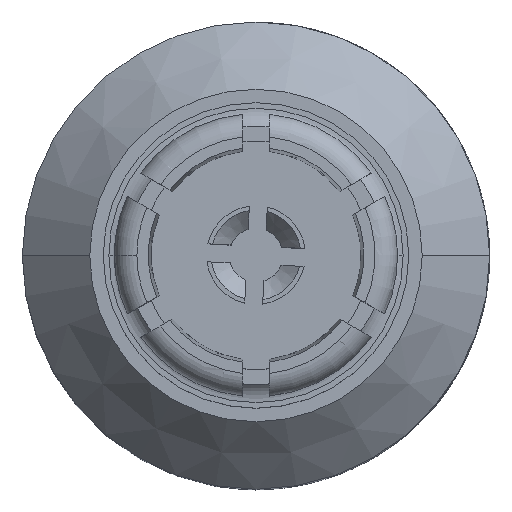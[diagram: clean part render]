
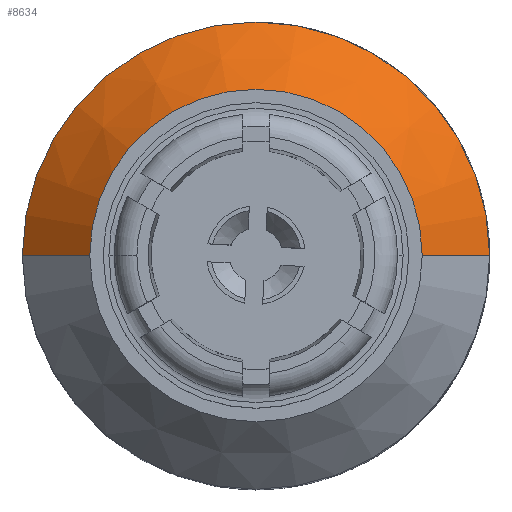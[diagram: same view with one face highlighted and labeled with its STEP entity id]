
A CAD part, top view. The second image highlights one B-rep face of the part: STEP entity #8634.
In plain terms, the highlighted conical face has half-angle 45 degrees and reference radius 1.321 mm.
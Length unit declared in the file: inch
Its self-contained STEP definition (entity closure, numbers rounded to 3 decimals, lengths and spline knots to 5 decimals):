
#140 = VECTOR ( 'NONE', #1028, 39.37008 ) ;
#150 = CIRCLE ( 'NONE', #5473, 0.037 ) ;
#764 = CARTESIAN_POINT ( 'NONE',  ( -0.037, 0., -0.052 ) ) ;
#1028 = DIRECTION ( 'NONE',  ( 0.707, 0., -0.707 ) ) ;
#1261 = CIRCLE ( 'NONE', #11273, 0.052 ) ;
#1588 = CARTESIAN_POINT ( 'NONE',  ( 0., 0., -0.067 ) ) ;
#1723 = ORIENTED_EDGE ( 'NONE', *, *, #5750, .F. ) ;
#1930 = DIRECTION ( 'NONE',  ( 0., 0., 1. ) ) ;
#2103 = DIRECTION ( 'NONE',  ( 0., 0., -1. ) ) ;
#2196 = VERTEX_POINT ( 'NONE', #764 ) ;
#2723 = VERTEX_POINT ( 'NONE', #10416 ) ;
#2995 = AXIS2_PLACEMENT_3D ( 'NONE', #7599, #2103, #3193 ) ;
#3121 = FACE_OUTER_BOUND ( 'NONE', #12282, .T. ) ;
#3193 = DIRECTION ( 'NONE',  ( -1., 0., 0. ) ) ;
#3350 = DIRECTION ( 'NONE',  ( 1., 0., 0. ) ) ;
#3425 = VERTEX_POINT ( 'NONE', #13402 ) ;
#3439 = CARTESIAN_POINT ( 'NONE',  ( 0.052, 0., -0.067 ) ) ;
#3480 = CONICAL_SURFACE ( 'NONE', #2995, 0.052, 0.785 ) ;
#3514 = LINE ( 'NONE', #3439, #140 ) ;
#4000 = LINE ( 'NONE', #11865, #11350 ) ;
#4078 = EDGE_CURVE ( 'NONE', #9135, #3425, #3514, .T. ) ;
#5473 = AXIS2_PLACEMENT_3D ( 'NONE', #9584, #1930, #8576 ) ;
#5750 = EDGE_CURVE ( 'NONE', #9135, #2196, #150, .T. ) ;
#6443 = ORIENTED_EDGE ( 'NONE', *, *, #6763, .T. ) ;
#6763 = EDGE_CURVE ( 'NONE', #3425, #2723, #1261, .T. ) ;
#7599 = CARTESIAN_POINT ( 'NONE',  ( 0., 0., -0.067 ) ) ;
#7839 = ORIENTED_EDGE ( 'NONE', *, *, #4078, .T. ) ;
#8576 = DIRECTION ( 'NONE',  ( 1., 0., 0. ) ) ;
#8634 = ADVANCED_FACE ( 'NONE', ( #3121 ), #3480, .T. ) ;
#9119 = ORIENTED_EDGE ( 'NONE', *, *, #9861, .F. ) ;
#9135 = VERTEX_POINT ( 'NONE', #14238 ) ;
#9584 = CARTESIAN_POINT ( 'NONE',  ( 0., 0., -0.052 ) ) ;
#9861 = EDGE_CURVE ( 'NONE', #2196, #2723, #4000, .T. ) ;
#10416 = CARTESIAN_POINT ( 'NONE',  ( -0.052, 0., -0.067 ) ) ;
#11273 = AXIS2_PLACEMENT_3D ( 'NONE', #1588, #12412, #3350 ) ;
#11350 = VECTOR ( 'NONE', #14063, 39.37008 ) ;
#11865 = CARTESIAN_POINT ( 'NONE',  ( -0.052, 0., -0.067 ) ) ;
#12282 = EDGE_LOOP ( 'NONE', ( #1723, #7839, #6443, #9119 ) ) ;
#12412 = DIRECTION ( 'NONE',  ( 0., 0., 1. ) ) ;
#13402 = CARTESIAN_POINT ( 'NONE',  ( 0.052, 0., -0.067 ) ) ;
#14063 = DIRECTION ( 'NONE',  ( -0.707, 0., -0.707 ) ) ;
#14238 = CARTESIAN_POINT ( 'NONE',  ( 0.037, 0., -0.052 ) ) ;
